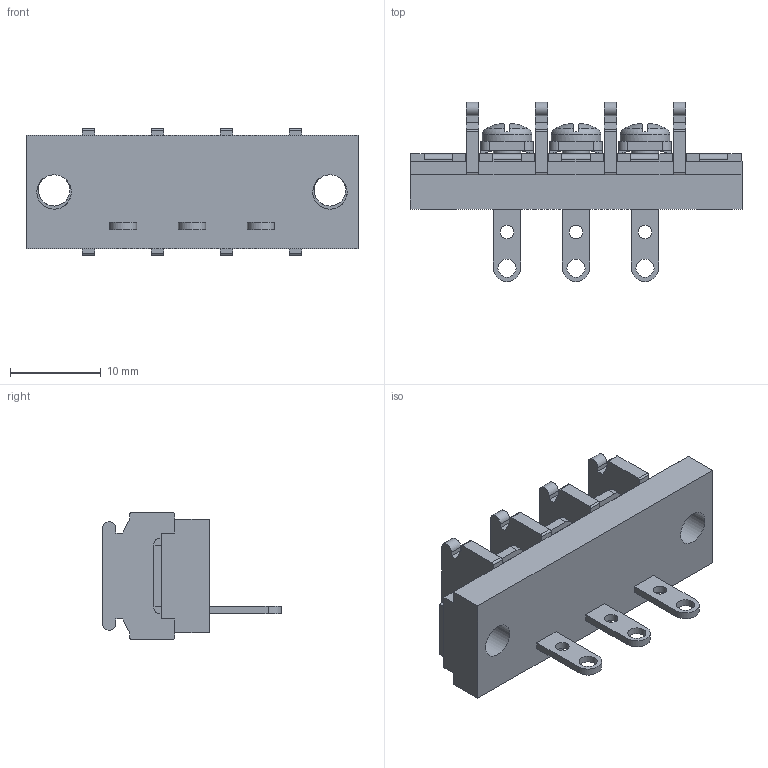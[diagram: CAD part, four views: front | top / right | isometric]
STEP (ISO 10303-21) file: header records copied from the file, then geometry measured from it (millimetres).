
FILE_DESCRIPTION(/* description */ ('Alibre Inc.'),/* implementation_level */ '2;1');
FILE_NAME(/* name */ 'export0',/* time_stamp */ '2015-10-23T19:59:08+09:00',/* author */ (''),/* organization */ (''),/* preprocessor_version */ 'ST-DEVELOPER v14',/* originating_system */ 'Alibre',/* authorisation */ '');
FILE_SCHEMA (('CONFIG_CONTROL_DESIGN'));
Length unit declared in the file: centimetre
Products named in the file (1): ID_1
Bounding box: 36.68 x 19.8 x 14 mm (x, y, z)
Volume: 3097 mm3; surface area: 3110.5 mm2
Topology: 1 solids, 17 shells, 800 faces, 2149 edges, 1417 vertices
Faces by surface type: plane 604, bspline 104, cylinder 68, cone 12, torus 6, sphere 6
Full cylindrical faces by diameter (mm): 1.5 x3, 2 x3, 3 x3, 3.5 x2, 3.8 x2, 5.5 x3
Entity records: 23902 total; most frequent: CARTESIAN_POINT 5444, ORIENTED_EDGE 4222, DIRECTION 2783, EDGE_CURVE 2111, VECTOR 1580, LINE 1580, VERTEX_POINT 1401, EDGE_LOOP 880
